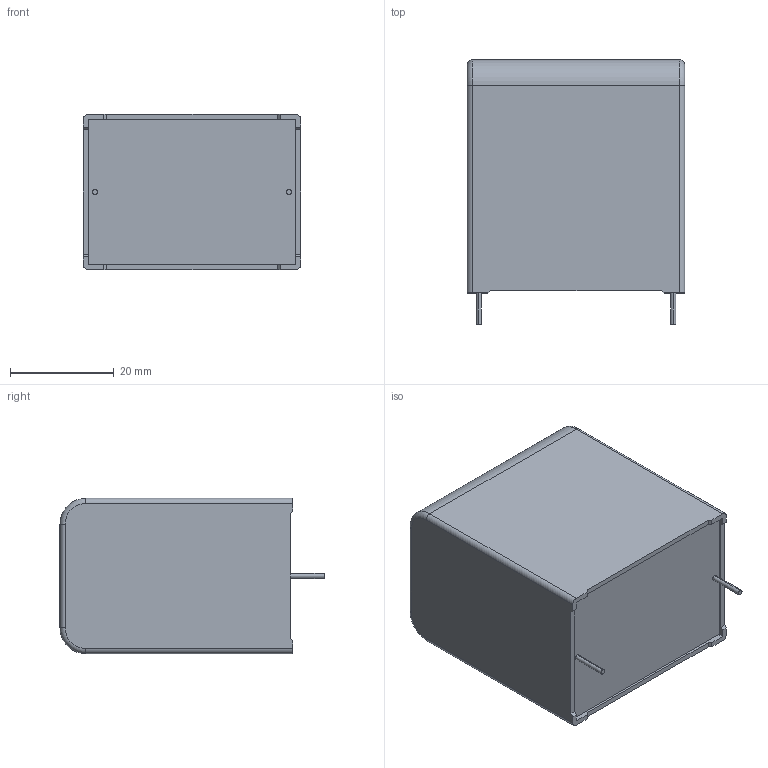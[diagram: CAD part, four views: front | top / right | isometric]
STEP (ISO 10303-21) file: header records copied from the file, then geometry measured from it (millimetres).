
FILE_DESCRIPTION (( 'STEP AP203' ), '1' );
FILE_NAME ('DC_Link_30x45x42_2pins.step', '2017-04-03T16:00:04', ( 'work' ), ( 'Hewlett-Packard Company' ), 'SwSTEP 2.0', 'SolidWorks 2017', '' );
FILE_SCHEMA (( 'CONFIG_CONTROL_DESIGN' ));
Length unit declared in the file: millimetre
Products named in the file (1): DC_Link_30x45x42_2pins
Bounding box: 42 x 51 x 30 mm (x, y, z)
Volume: 55032.9 mm3; surface area: 8763.2 mm2
Topology: 1 solids, 1 shells, 116 faces, 307 edges, 202 vertices
Faces by surface type: plane 80, cylinder 16, bspline 16, torus 4
Entity records: 4332 total; most frequent: CARTESIAN_POINT 1450, ORIENTED_EDGE 614, DIRECTION 513, EDGE_CURVE 307, VECTOR 239, LINE 239, VERTEX_POINT 202, AXIS2_PLACEMENT_3D 137
